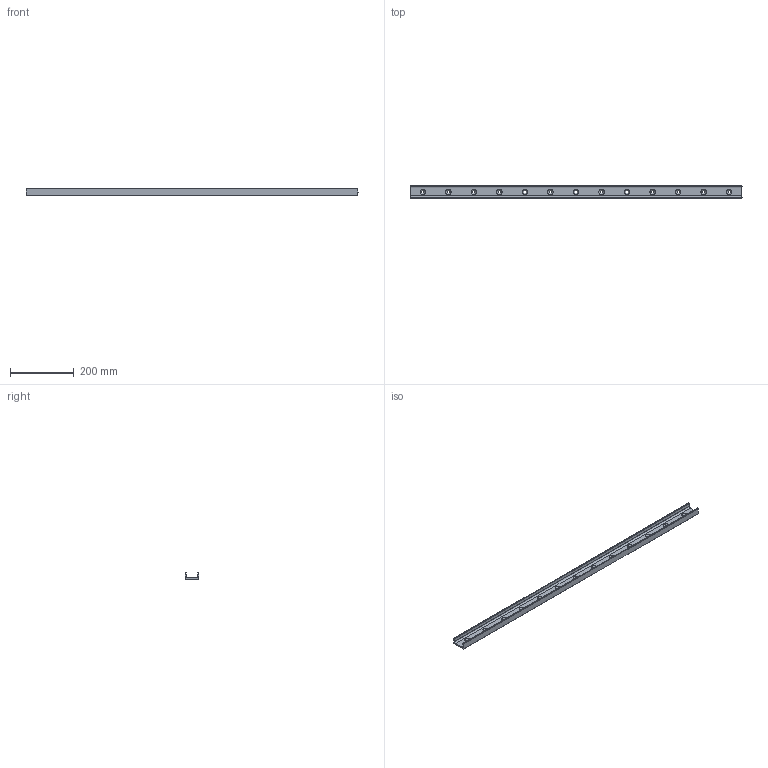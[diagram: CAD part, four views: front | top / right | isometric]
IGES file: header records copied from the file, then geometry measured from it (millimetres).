
Start section: SolidWorks IGES file using analytic representation for surfaces
Global section: file name: C:\Users\IanO\Desktop\43\L1943.ULV43_v2_20180121_IGES\L1943.ULV43-1040.igs; native system: SolidWorks 2017; preprocessor: SolidWorks 2017; author: IanO; date: 190121.090008; units: millimetre
Bounding box: 1040 x 43 x 21 mm (x, y, z)
Surface area: 161784.7 mm2 (no closed solid volume)
Topology: 0 solids, 0 shells, 78 faces, 1334 edges, 1334 vertices
Faces by surface type: revolution 65, bspline 13
